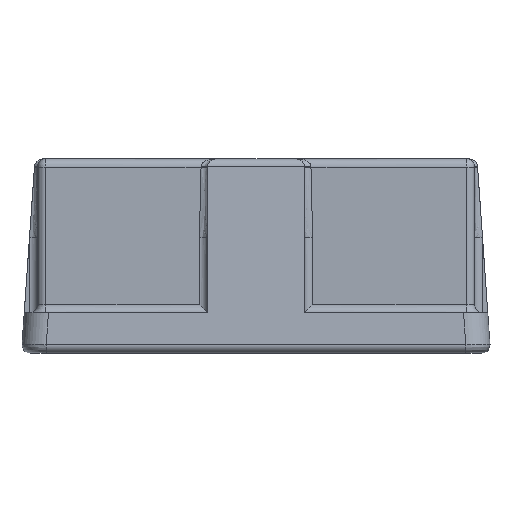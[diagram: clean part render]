
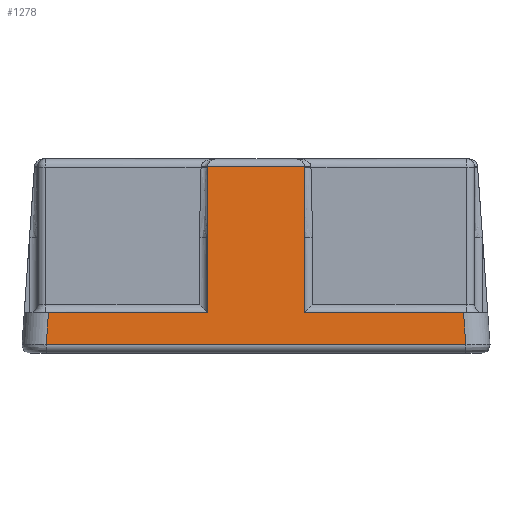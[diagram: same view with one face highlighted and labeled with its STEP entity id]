
A CAD part, front view. The second image highlights one B-rep face of the part: STEP entity #1278.
In plain terms, the highlighted planar face has unit normal (0, -0.998, 0.07).
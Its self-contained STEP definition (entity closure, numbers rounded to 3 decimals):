
#91 = EDGE_CURVE ( 'NONE', #3572, #5342, #9290, .T. ) ;
#268 = ORIENTED_EDGE ( 'NONE', *, *, #12268, .T. ) ;
#660 = CARTESIAN_POINT ( 'NONE',  ( -12.87, -14.367, -0.595 ) ) ;
#682 = ORIENTED_EDGE ( 'NONE', *, *, #1354, .T. ) ;
#928 = VECTOR ( 'NONE', #18091, 1000. ) ;
#1106 = ORIENTED_EDGE ( 'NONE', *, *, #24945, .F. ) ;
#1278 = ADVANCED_FACE ( 'NONE', ( #4312 ), #13122, .T. ) ;
#1354 = EDGE_CURVE ( 'NONE', #26762, #27409, #15419, .T. ) ;
#1902 = EDGE_CURVE ( 'NONE', #25046, #8262, #22556, .T. ) ;
#1959 = CARTESIAN_POINT ( 'NONE',  ( 3., -14., 4.65 ) ) ;
#2289 = ORIENTED_EDGE ( 'NONE', *, *, #7506, .T. ) ;
#2419 = CARTESIAN_POINT ( 'NONE',  ( 14.5, -13.693, 9.035 ) ) ;
#2698 = CARTESIAN_POINT ( 'NONE',  ( 3., -14.325, 0. ) ) ;
#3022 = CARTESIAN_POINT ( 'NONE',  ( -3., -14.5, -2.5 ) ) ;
#3279 = EDGE_CURVE ( 'NONE', #5919, #5368, #23774, .T. ) ;
#3444 = EDGE_CURVE ( 'NONE', #3572, #26762, #13202, .T. ) ;
#3523 = CARTESIAN_POINT ( 'NONE',  ( 14.5, -14.325, 0. ) ) ;
#3572 = VERTEX_POINT ( 'NONE', #8103 ) ;
#3687 = CARTESIAN_POINT ( 'NONE',  ( 3., -12.271, 29.369 ) ) ;
#3718 = EDGE_CURVE ( 'NONE', #25079, #25847, #16144, .T. ) ;
#4106 = CARTESIAN_POINT ( 'NONE',  ( -3., -13.696, 9. ) ) ;
#4243 = CARTESIAN_POINT ( 'NONE',  ( 2.999, -13.693, 9.035 ) ) ;
#4312 = FACE_OUTER_BOUND ( 'NONE', #22198, .T. ) ;
#4333 = VERTEX_POINT ( 'NONE', #8038 ) ;
#4368 = DIRECTION ( 'NONE',  ( -1., 0., 0. ) ) ;
#5195 = ORIENTED_EDGE ( 'NONE', *, *, #13247, .T. ) ;
#5236 = ORIENTED_EDGE ( 'NONE', *, *, #3718, .T. ) ;
#5302 = ORIENTED_EDGE ( 'NONE', *, *, #3279, .T. ) ;
#5342 = VERTEX_POINT ( 'NONE', #20391 ) ;
#5368 = VERTEX_POINT ( 'NONE', #18205 ) ;
#5386 = VECTOR ( 'NONE', #25670, 1000. ) ;
#5472 = EDGE_CURVE ( 'NONE', #14841, #28298, #23994, .T. ) ;
#5919 = VERTEX_POINT ( 'NONE', #19534 ) ;
#6293 = CARTESIAN_POINT ( 'NONE',  ( -3., -13.696, 9. ) ) ;
#6462 = AXIS2_PLACEMENT_3D ( 'NONE', #23703, #23848, #21964 ) ;
#6882 = VECTOR ( 'NONE', #17737, 1000. ) ;
#6951 = CARTESIAN_POINT ( 'NONE',  ( 3., -13.696, 9. ) ) ;
#7008 = CARTESIAN_POINT ( 'NONE',  ( -3., -14., 4.65 ) ) ;
#7506 = EDGE_CURVE ( 'NONE', #8262, #27483, #23093, .T. ) ;
#7662 = DIRECTION ( 'NONE',  ( 0., -0.07, -0.998 ) ) ;
#7786 = VECTOR ( 'NONE', #23504, 1000. ) ;
#8038 = CARTESIAN_POINT ( 'NONE',  ( -12.966, -14.463, -1.965 ) ) ;
#8103 = CARTESIAN_POINT ( 'NONE',  ( 3., -13.696, 9. ) ) ;
#8262 = VERTEX_POINT ( 'NONE', #11422 ) ;
#8579 = CARTESIAN_POINT ( 'NONE',  ( 14.5, -14.325, 0. ) ) ;
#8774 = VECTOR ( 'NONE', #18171, 1000. ) ;
#9026 = CARTESIAN_POINT ( 'NONE',  ( -3., -14.5, -2.5 ) ) ;
#9173 = ORIENTED_EDGE ( 'NONE', *, *, #18255, .T. ) ;
#9190 = DIRECTION ( 'NONE',  ( 0., -0.07, -0.998 ) ) ;
#9273 = LINE ( 'NONE', #13301, #27130 ) ;
#9290 = LINE ( 'NONE', #18234, #928 ) ;
#9369 = VECTOR ( 'NONE', #4368, 1000. ) ;
#9593 = CARTESIAN_POINT ( 'NONE',  ( 12.966, -14.463, -1.965 ) ) ;
#10130 = VECTOR ( 'NONE', #12350, 1000. ) ;
#10696 = ORIENTED_EDGE ( 'NONE', *, *, #1902, .T. ) ;
#11192 = LINE ( 'NONE', #9026, #22098 ) ;
#11422 = CARTESIAN_POINT ( 'NONE',  ( -3., -13.697, 8.979 ) ) ;
#11576 = DIRECTION ( 'NONE',  ( 1., 0., 0. ) ) ;
#11895 = EDGE_CURVE ( 'NONE', #27409, #25046, #25476, .T. ) ;
#12228 = CARTESIAN_POINT ( 'NONE',  ( -3., -14.5, -2.5 ) ) ;
#12268 = EDGE_CURVE ( 'NONE', #4333, #25079, #9273, .T. ) ;
#12350 = DIRECTION ( 'NONE',  ( -1., 0., 0. ) ) ;
#12729 = ORIENTED_EDGE ( 'NONE', *, *, #91, .F. ) ;
#13038 = LINE ( 'NONE', #8579, #9369 ) ;
#13104 = CARTESIAN_POINT ( 'NONE',  ( 12.829, -14.325, 0. ) ) ;
#13122 = PLANE ( 'NONE',  #6462 ) ;
#13202 =( BOUNDED_CURVE ( )  B_SPLINE_CURVE ( 3, ( #6951, #17377, #26224, #4243 ),
 .UNSPECIFIED., .F., .T. ) 
 B_SPLINE_CURVE_WITH_KNOTS ( ( 4, 4 ),
 ( 1.571, 1.641 ),
 .UNSPECIFIED. ) 
 CURVE ( )  GEOMETRIC_REPRESENTATION_ITEM ( )  RATIONAL_B_SPLINE_CURVE ( ( 1., 1., 1., 1. ) ) 
 REPRESENTATION_ITEM ( '' )  );
#13247 = EDGE_CURVE ( 'NONE', #25847, #28298, #13038, .T. ) ;
#13301 = CARTESIAN_POINT ( 'NONE',  ( 13.004, -14.463, -1.965 ) ) ;
#14172 = ORIENTED_EDGE ( 'NONE', *, *, #21530, .T. ) ;
#14249 = VECTOR ( 'NONE', #7662, 1000. ) ;
#14841 = VERTEX_POINT ( 'NONE', #1959 ) ;
#15088 = ORIENTED_EDGE ( 'NONE', *, *, #5472, .F. ) ;
#15419 = LINE ( 'NONE', #2419, #8774 ) ;
#16144 = LINE ( 'NONE', #27000, #6882 ) ;
#16830 = LINE ( 'NONE', #3687, #5386 ) ;
#17027 = CARTESIAN_POINT ( 'NONE',  ( -2.999, -13.693, 9.035 ) ) ;
#17377 = CARTESIAN_POINT ( 'NONE',  ( 3., -13.695, 9.012 ) ) ;
#17737 = DIRECTION ( 'NONE',  ( -0.07, 0.07, 0.995 ) ) ;
#17822 = DIRECTION ( 'NONE',  ( 0., -0.07, -0.998 ) ) ;
#18091 = DIRECTION ( 'NONE',  ( 0., -0.07, -0.998 ) ) ;
#18171 = DIRECTION ( 'NONE',  ( -1., 0., 0. ) ) ;
#18205 = CARTESIAN_POINT ( 'NONE',  ( -12.829, -14.325, 0. ) ) ;
#18234 = CARTESIAN_POINT ( 'NONE',  ( 3., -12.271, 29.369 ) ) ;
#18255 = EDGE_CURVE ( 'NONE', #5368, #4333, #25394, .T. ) ;
#19288 = CARTESIAN_POINT ( 'NONE',  ( -2.999, -13.693, 9.035 ) ) ;
#19365 = CARTESIAN_POINT ( 'NONE',  ( 3., -12.271, 29.369 ) ) ;
#19534 = CARTESIAN_POINT ( 'NONE',  ( -3., -14.325, 0. ) ) ;
#19572 = CARTESIAN_POINT ( 'NONE',  ( -3., -13.694, 9.023 ) ) ;
#20391 = CARTESIAN_POINT ( 'NONE',  ( 3., -13.697, 8.979 ) ) ;
#20904 = DIRECTION ( 'NONE',  ( -0.07, -0.07, -0.995 ) ) ;
#21407 = ORIENTED_EDGE ( 'NONE', *, *, #11895, .T. ) ;
#21530 = EDGE_CURVE ( 'NONE', #27483, #5919, #11192, .T. ) ;
#21712 = VECTOR ( 'NONE', #9190, 1000. ) ;
#21964 = DIRECTION ( 'NONE',  ( 0., -0.07, -0.998 ) ) ;
#22098 = VECTOR ( 'NONE', #17822, 1000. ) ;
#22198 = EDGE_LOOP ( 'NONE', ( #9173, #268, #5236, #5195, #15088, #1106, #12729, #26879, #682, #21407, #10696, #2289, #14172, #5302 ) ) ;
#22556 = LINE ( 'NONE', #3022, #14249 ) ;
#23093 = LINE ( 'NONE', #12228, #7786 ) ;
#23504 = DIRECTION ( 'NONE',  ( 0., -0.07, -0.998 ) ) ;
#23703 = CARTESIAN_POINT ( 'NONE',  ( 14.5, -14.5, -2.5 ) ) ;
#23774 = LINE ( 'NONE', #3523, #10130 ) ;
#23848 = DIRECTION ( 'NONE',  ( 0., -0.998, 0.07 ) ) ;
#23994 = LINE ( 'NONE', #19365, #21712 ) ;
#24945 = EDGE_CURVE ( 'NONE', #5342, #14841, #16830, .T. ) ;
#25046 = VERTEX_POINT ( 'NONE', #6293 ) ;
#25079 = VERTEX_POINT ( 'NONE', #9593 ) ;
#25342 = VECTOR ( 'NONE', #20904, 1000. ) ;
#25394 = LINE ( 'NONE', #660, #25342 ) ;
#25476 =( BOUNDED_CURVE ( )  B_SPLINE_CURVE ( 3, ( #19288, #19572, #28393, #4106 ),
 .UNSPECIFIED., .F., .T. ) 
 B_SPLINE_CURVE_WITH_KNOTS ( ( 4, 4 ),
 ( 1.501, 1.571 ),
 .UNSPECIFIED. ) 
 CURVE ( )  GEOMETRIC_REPRESENTATION_ITEM ( )  RATIONAL_B_SPLINE_CURVE ( ( 1., 1., 1., 1. ) ) 
 REPRESENTATION_ITEM ( '' )  );
#25643 = CARTESIAN_POINT ( 'NONE',  ( 2.999, -13.693, 9.035 ) ) ;
#25670 = DIRECTION ( 'NONE',  ( 0., -0.07, -0.998 ) ) ;
#25847 = VERTEX_POINT ( 'NONE', #13104 ) ;
#26224 = CARTESIAN_POINT ( 'NONE',  ( 3., -13.694, 9.023 ) ) ;
#26762 = VERTEX_POINT ( 'NONE', #25643 ) ;
#26879 = ORIENTED_EDGE ( 'NONE', *, *, #3444, .T. ) ;
#27000 = CARTESIAN_POINT ( 'NONE',  ( 13.011, -14.507, -2.604 ) ) ;
#27130 = VECTOR ( 'NONE', #11576, 1000. ) ;
#27409 = VERTEX_POINT ( 'NONE', #17027 ) ;
#27483 = VERTEX_POINT ( 'NONE', #7008 ) ;
#28298 = VERTEX_POINT ( 'NONE', #2698 ) ;
#28393 = CARTESIAN_POINT ( 'NONE',  ( -3., -13.695, 9.012 ) ) ;
